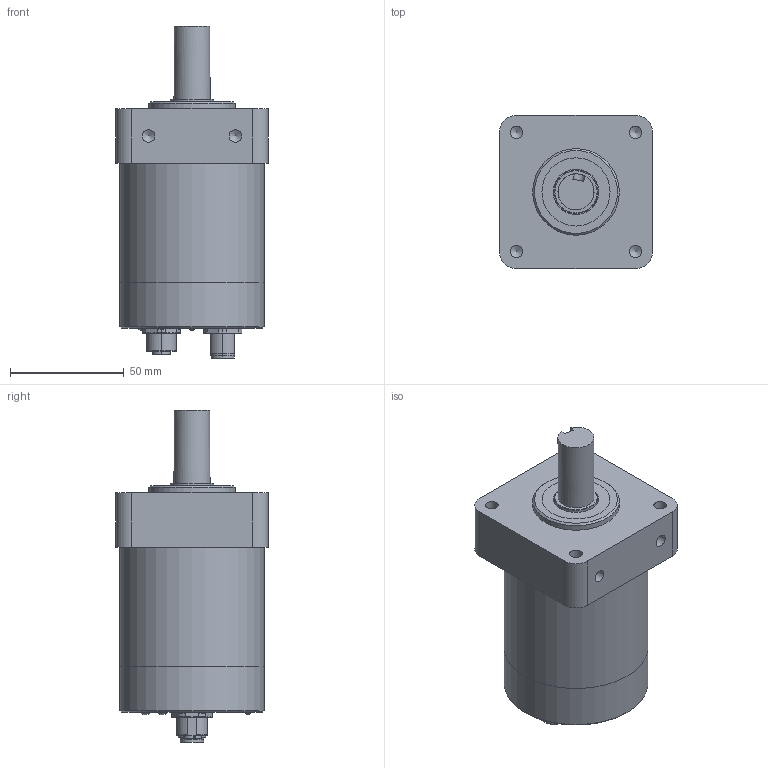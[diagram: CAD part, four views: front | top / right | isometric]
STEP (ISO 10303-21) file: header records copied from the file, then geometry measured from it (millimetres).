
FILE_DESCRIPTION(/* description */ ('Alibre Inc.'),/* implementation_level */ '2;1');
FILE_NAME(/* name */ 'export0',/* time_stamp */ '2010-05-25T09:12:43-04:00',/* author */ (''),/* organization */ (''),/* preprocessor_version */ 'ST-DEVELOPER v10',/* originating_system */ 'Alibre',/* authorisation */ '');
FILE_SCHEMA (('CONFIG_CONTROL_DESIGN'));
Length unit declared in the file: centimetre
Products named in the file (12): ID_1; ID_2; ID_3; ID_4; ID_5; ID_6; ID_7; ID_8; ID_9; ID_10
Bounding box: 67.3 x 67.3 x 146.12 mm (x, y, z)
Volume: 338729.2 mm3; surface area: 62159 mm2
Topology: 11 solids, 11 shells, 296 faces, 651 edges, 418 vertices
Faces by surface type: plane 126, cylinder 117, cone 42, bspline 4, sphere 4, torus 3
Full cylindrical faces by diameter (mm): 2.92 x2, 3 x20, 3.96 x4, 5.524 x6, 11.5 x1, 15.85 x1, 19 x1, 20 x3, 24 x2, 30 x2, 38.1 x1, 42 x2, 58.72 x2, 63.5 x2
Entity records: 8839 total; most frequent: CARTESIAN_POINT 1491, DIRECTION 1291, ORIENTED_EDGE 1120, AXIS2_PLACEMENT_3D 591, EDGE_CURVE 560, FACE_BOUND 410, EDGE_LOOP 404, VERTEX_POINT 402
